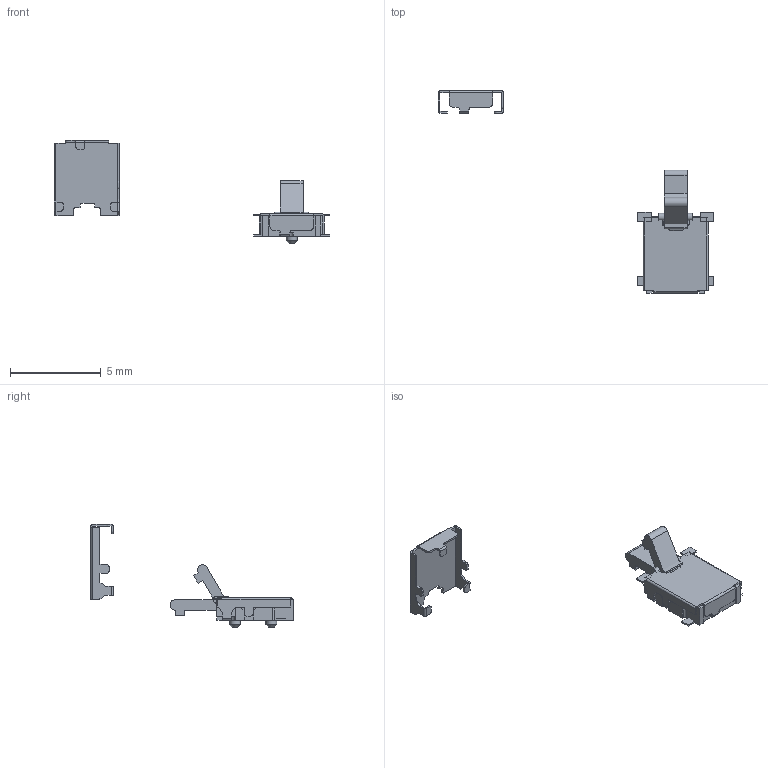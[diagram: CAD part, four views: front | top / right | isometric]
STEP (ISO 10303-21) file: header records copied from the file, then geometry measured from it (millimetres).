
FILE_DESCRIPTION( ( 'Unknown' ), '1' );
FILE_NAME( '//Ntcw022/edgesv/fsw/ユーザ提出用データ/ﾃﾞｨﾃｸﾀｰｽｲｯﾁ/ESE13/ese13v01d-std-sk.stp', 'Unknown', ( 'Unknown' ), ( 'Unknown' ), 'PSStep 10.0', 'Unknown', ' ' );
FILE_SCHEMA( ( 'AUTOMOTIVE_DESIGN { 1 0 10303 214 1 1 1 1 }' ) );
Length unit declared in the file: millimetre
Products named in the file (6): Assem1; sw-131-e13cs-boss-sk; sw-131-e13fm-sk; sw-131-e13lv1-sk; sw-131-e13ts-f-sk
Bounding box: 15.2 x 11.15 x 5.68 mm (x, y, z)
Volume: 38.4 mm3; surface area: 222.3 mm2
Topology: 10 solids, 10 shells, 364 faces, 988 edges, 656 vertices
Faces by surface type: plane 280, cylinder 80, cone 4
Full cylindrical faces by diameter (mm): 0.01 x8, 0.4 x2, 0.6 x4
Entity records: 7085 total; most frequent: CARTESIAN_POINT 996, ORIENTED_EDGE 964, DIRECTION 942, EDGE_CURVE 482, LINE 398, VECTOR 398, VERTEX_POINT 326, AXIS2_PLACEMENT_3D 272
